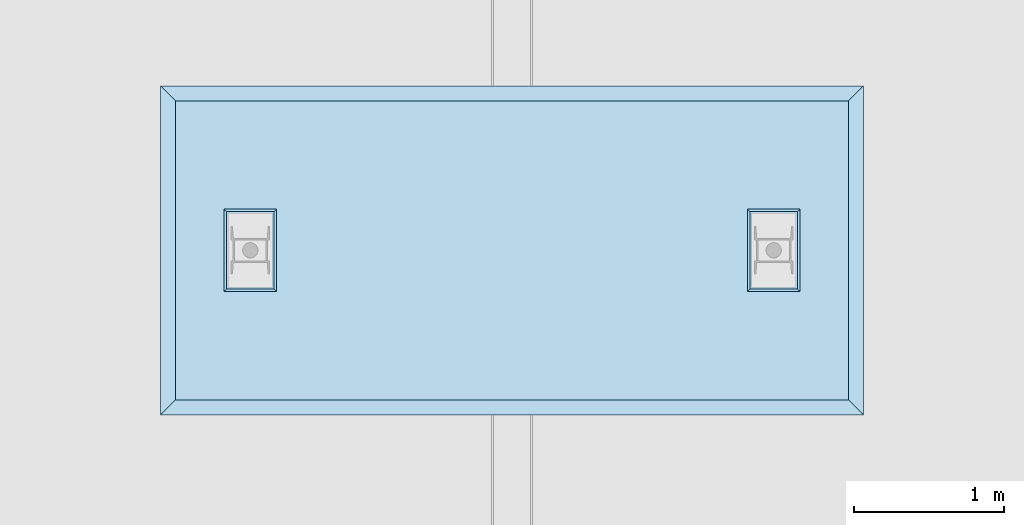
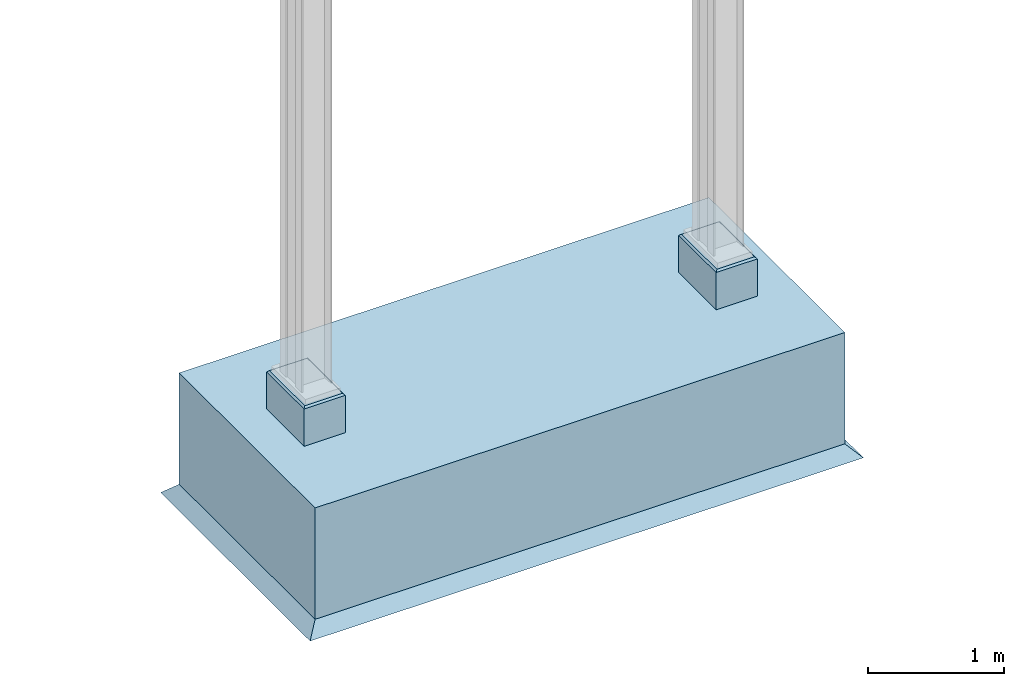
# One storey, incomplete: 1 slab.
"""IFC4 building model written with IfcOpenShell, lengths in metres."""

from ifc_helpers import new_model, entity, si_unit, converted_unit, direction, origin, place, context, subcontext, project, spatial, polygons, material, type_object, element, save


model = new_model("IFC4")

# Units and contexts
model_context = context("Model", 3, precision=1e-05, world=origin(), true_north=direction((6.123031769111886e-17, 1.0)))
body_context = subcontext(model_context, "Body", "Model", "MODEL_VIEW")
ifc_project = project(units=[si_unit("LENGTHUNIT", "METRE"), converted_unit("PLANEANGLEUNIT", "DEGREE", entity("IfcPlaneAngleMeasure", 0.017453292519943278), si_unit("PLANEANGLEUNIT", "RADIAN"), dimensions=[0, 0, 0, 0, 0, 0, 0])], contexts=[model_context])

# Site, building, storey
site_placement = place(None, origin())
site = spatial("IfcSite", under=ifc_project, at=site_placement, Name="Default", CompositionType="ELEMENT")
building_placement = place(site_placement, origin())
building = spatial("IfcBuilding", under=site, at=building_placement, CompositionType="ELEMENT")
storey_placement = place(building_placement, origin())
storey = spatial("IfcBuildingStorey", under=building, at=storey_placement, Name="DB_Bezugshoehe_max_Bahnsteigkante", CompositionType="ELEMENT", Elevation=0.0)

# Slab
ifc_material = material(Name="DB_Ortbeton", Category="DB_Beton")
slab_type = type_object("IfcSlabType", Name="DB_Systemdach_Fundament_Typ2.2:Variante1", PredefinedType="BASESLAB", material=ifc_material)
slab_placement = place(storey_placement, origin())
element("IfcSlab", 1, at=slab_placement, inside=storey, type_object=slab_type, Name="DB_Systemdach_Fundament_Typ2.2:Variante1", ObjectType="DB_Systemdach_Fundament_Typ2.2:Variante1", PredefinedType="BASESLAB", context=body_context, shape_type="Tessellation", body=[
    polygons([(2.2500000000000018, 1.000000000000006, -0.25), (-2.249999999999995, 1.000000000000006, -0.25), (-2.2499999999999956, -0.9999999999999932, -0.25), (2.2500000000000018, -0.9999999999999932, -0.25), (2.2500000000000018, 1.000000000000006, -1.2499999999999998), (2.2500000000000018, -0.9999999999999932, -1.2499999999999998), (-2.2499999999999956, -0.9999999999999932, -1.2499999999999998), (-2.249999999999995, 1.000000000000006, -1.2499999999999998)], [[[1, 2, 3, 4]], [[5, 6, 7, 8]], [[2, 1, 5, 8]], [[3, 2, 8, 7]], [[4, 3, 7, 6]], [[1, 4, 6, 5]]], closed=True),
    polygons([(2.250000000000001, 1.0000000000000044, -1.2499999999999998), (-2.249999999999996, 1.0000000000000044, -1.2499999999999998), (-2.249999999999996, -0.9999999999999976, -1.2499999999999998), (2.250000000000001, -0.9999999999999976, -1.2499999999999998), (2.350000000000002, 1.100000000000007, -1.3499999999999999), (2.350000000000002, -1.1000000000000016, -1.3499999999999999), (-2.35, -1.1000000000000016, -1.3499999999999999), (-2.35, 1.100000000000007, -1.3499999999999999)], [[[1, 2, 3, 4]], [[5, 6, 7, 8]], [[5, 8, 2, 1]], [[8, 7, 3, 2]], [[7, 6, 4, 3]], [[6, 5, 1, 4]]], closed=True),
    polygons([(1.9249999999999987, 0.2749999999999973, 0.08500000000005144), (1.574999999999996, 0.2749999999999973, 0.08500000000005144), (1.574999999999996, -0.27499999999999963, 0.08500000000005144), (1.9249999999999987, -0.27499999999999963, 0.08500000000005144), (1.9249999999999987, 0.2749999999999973, -0.24999999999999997), (1.574999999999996, 0.2749999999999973, -0.24999999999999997), (1.574999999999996, -0.27499999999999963, -0.24999999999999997), (1.9249999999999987, -0.27499999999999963, -0.24999999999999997)], [[[1, 2, 3, 4]], [[2, 1, 5, 6]], [[3, 2, 6, 7]], [[4, 3, 7, 8]], [[1, 4, 8, 5]], [[5, 8, 7, 6]]], closed=True),
    polygons([(-1.5750000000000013, 0.2749999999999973, -0.24999999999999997), (-1.5750000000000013, -0.27499999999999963, -0.24999999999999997), (-1.9249999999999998, -0.27499999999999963, -0.24999999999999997), (-1.9249999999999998, 0.2749999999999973, -0.24999999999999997), (-1.9249999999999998, 0.2749999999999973, 0.08500000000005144), (-1.5750000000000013, 0.2749999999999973, 0.08500000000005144), (-1.9249999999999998, -0.27499999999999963, 0.08500000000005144), (-1.5750000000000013, -0.27499999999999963, 0.08500000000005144)], [[[1, 2, 3, 4]], [[5, 6, 1, 4]], [[7, 5, 4, 3]], [[8, 7, 3, 2]], [[6, 8, 2, 1]], [[6, 5, 7, 8]]], closed=True),
    polygons([(1.5899999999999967, 0.25999999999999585, 0.09999999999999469), (1.5899999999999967, -0.2599999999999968, 0.09999999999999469), (1.909999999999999, -0.25999999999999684, 0.09999999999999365), (1.909999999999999, 0.2599999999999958, 0.09999999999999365), (1.5749999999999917, 0.2749999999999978, 0.08500000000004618), (1.9249999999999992, 0.2749999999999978, 0.08500000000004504), (1.9249999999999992, -0.27499999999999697, 0.08500000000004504), (1.5749999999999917, -0.27499999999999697, 0.08500000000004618)], [[[1, 2, 3, 4]], [[5, 6, 7, 8]], [[6, 5, 1, 4]], [[7, 6, 4, 3]], [[8, 7, 3, 2]], [[5, 8, 2, 1]]], closed=True),
    polygons([(-1.9100000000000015, 0.2599999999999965, 0.10000000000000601), (-1.9100000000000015, -0.2599999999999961, 0.10000000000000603), (-1.5900000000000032, -0.2599999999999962, 0.10000000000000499), (-1.5900000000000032, 0.2599999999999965, 0.10000000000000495), (-1.9250000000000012, 0.2749999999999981, 0.08500000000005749), (-1.575000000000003, 0.274999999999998, 0.08500000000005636), (-1.575000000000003, -0.27499999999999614, 0.08500000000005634), (-1.9250000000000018, -0.27499999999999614, 0.08500000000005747)], [[[1, 2, 3, 4]], [[5, 6, 7, 8]], [[6, 5, 1, 4]], [[7, 6, 4, 3]], [[8, 7, 3, 2]], [[5, 8, 2, 1]]], closed=True),
])

save(model, "model.ifc")
